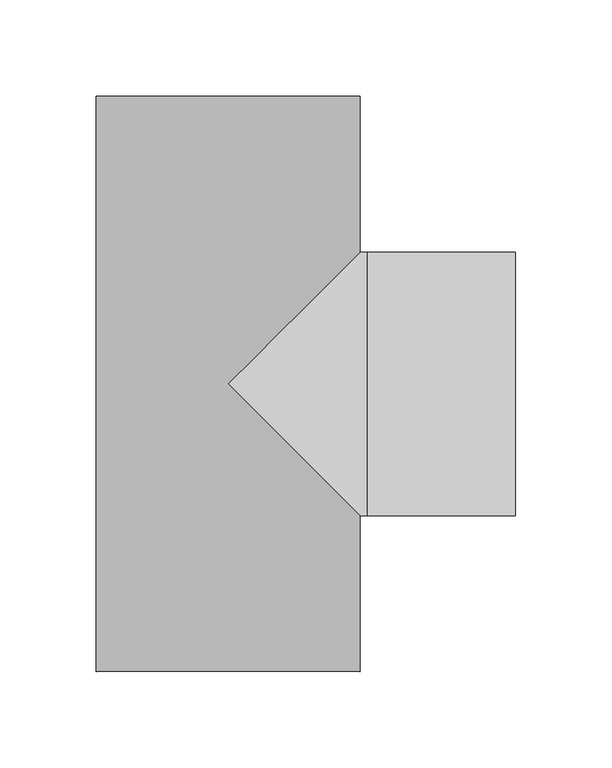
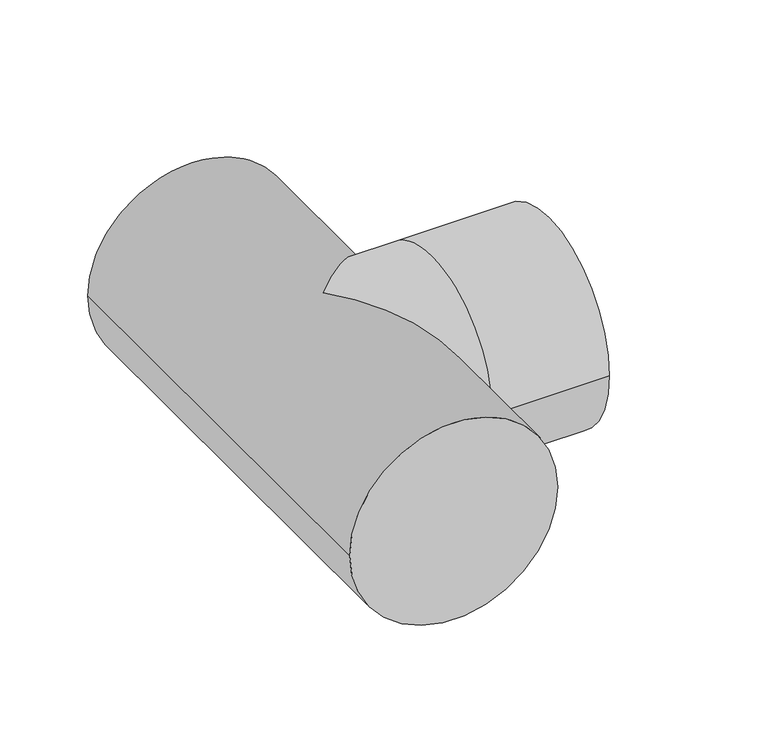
"""IFC4 building model written with IfcOpenShell, lengths in millimetres: pipe fitting geometry, 01051003 : Tés à 90º."""

from ifc_helpers import new_model, si_unit, frame, origin, place, context, project, spatial, circle_curve, ellipse_curve, source, transform, mapped, element, save
from ifc_brep_helpers import plane_surface, cylinder_surface, advanced_brep


def pipe_fitting_ccf7bf4d(model_context):
    return source(origin(), model_context, "Body", "AdvancedBrep", [
        advanced_brep(
        [(-68.4, 149.0, 0.0), (68.4, 149.0, 0.0), (-68.4, -149.0, 0.0), (68.4, -149.0, 0.0), (68.4, -68.4, 0.0), (0.0, 0.0, 68.4), (68.4, 68.4, 0.0), (0.0, 0.0, -68.4), (149.0, 68.4, 0.0), (149.0, -68.4, 0.0), (72.0, -68.4, 0.0), (72.0, 68.4, 0.0)],
        [
            (0, 1, circle_curve(frame((0.0, 149.0, 0.0), z_axis=(0.0, 1.0, 0.0), x_axis=(1.0, 0.0, 0.0)), 68.4)),
            (1, 0, circle_curve(frame((0.0, 149.0, 0.0), z_axis=(0.0, 1.0, 0.0), x_axis=(1.0, 0.0, 0.0)), 68.4)),
            (2, 3, circle_curve(frame((0.0, -149.0, 0.0), z_axis=(0.0, -1.0, 0.0), x_axis=(1.0, 0.0, 0.0)), 68.4)),
            (3, 2, circle_curve(frame((0.0, -149.0, 0.0), z_axis=(0.0, -1.0, 0.0), x_axis=(1.0, 0.0, 0.0)), 68.4)),
            (0, 2),
            (3, 4),
            (4, 5, ellipse_curve(frame((0.0, 0.0, 0.0), z_axis=(-0.7071067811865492, -0.7071067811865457, 0.0), x_axis=(-0.7071067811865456, 0.7071067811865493, 0.0)), 96.7322077, 68.4)),
            (5, 6, ellipse_curve(frame((0.0, 0.0, 0.0), z_axis=(-0.7071067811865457, 0.7071067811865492, 0.0), x_axis=(0.7071067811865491, 0.7071067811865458, 0.0)), 96.7322077, 68.4)),
            (6, 1),
            (6, 7, ellipse_curve(frame((0.0, 0.0, 0.0), z_axis=(-0.7071067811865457, 0.7071067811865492, 0.0), x_axis=(0.7071067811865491, 0.7071067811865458, 0.0)), 96.7322077, 68.4)),
            (7, 4, ellipse_curve(frame((0.0, 0.0, 0.0), z_axis=(-0.7071067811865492, -0.7071067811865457, 0.0), x_axis=(-0.7071067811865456, 0.7071067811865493, 0.0)), 96.7322077, 68.4)),
            (8, 9, circle_curve(frame((149.0, 0.0, 0.0), z_axis=(1.0, 0.0, 0.0), x_axis=(0.0, -1.0, 0.0)), 68.4)),
            (9, 8, circle_curve(frame((149.0, 0.0, 0.0), z_axis=(1.0, 0.0, 0.0), x_axis=(0.0, -1.0, 0.0)), 68.4)),
            (10, 11, circle_curve(frame((72.0, 0.0, 0.0), z_axis=(-1.0, 0.0, 0.0), x_axis=(0.0, -1.0, 0.0)), 68.4)),
            (11, 6),
            (4, 10),
            (11, 10, circle_curve(frame((72.0, 0.0, 0.0), z_axis=(-1.0, 0.0, 0.0), x_axis=(0.0, -1.0, 0.0)), 68.4)),
            (8, 11),
            (10, 9),
        ],
        [
            plane_surface(frame((0.0, 149.0, 0.0), z_axis=(0.0, 1.0, 0.0), x_axis=(0.0, 0.0, 1.0))),
            plane_surface(frame((0.0, -149.0, 0.0), z_axis=(0.0, -1.0, 0.0), x_axis=(0.0, 0.0, 1.0))),
            cylinder_surface(frame((0.0, 149.0, 0.0), z_axis=(0.0, 1.0, 0.0), x_axis=(1.0, 0.0, 0.0)), 68.4),
            plane_surface(frame((149.0, 0.0, 0.0), z_axis=(1.0, 0.0, 0.0), x_axis=(0.0, 0.0, 1.0))),
            cylinder_surface(frame((72.0, 0.0, 0.0), z_axis=(1.0, 0.0, 0.0), x_axis=(0.0, -1.0, 0.0)), 68.4),
            cylinder_surface(frame((149.0, 0.0, 0.0), z_axis=(1.0, 0.0, 0.0), x_axis=(0.0, -1.0, 0.0)), 68.4),
        ],
        [
            (0, [[1, 2]]),
            (1, [[3, 4]]),
            (2, [[-1, 5, -4, 6, 7, 8, 9]]),
            (2, [[-2, -9, 10, 11, -6, -3, -5]]),
            (3, [[12, 13]]),
            (4, [[14, 15, -8, -7, 16]]),
            (4, [[17, -16, -11, -10, -15]]),
            (5, [[-12, 18, -14, 19]]),
            (5, [[-13, -19, -17, -18]]),
        ],
    ),
    ])


if __name__ == "__main__":
    model = new_model("IFC4")
    model_context = context("Model", 3, world=origin())
    ifc_project = project(units=[si_unit("LENGTHUNIT", "METRE", prefix="MILLI")], contexts=[model_context])
    site = spatial("IfcSite", under=ifc_project)
    building = spatial("IfcBuilding", under=site)
    placement = place(None, origin())
    pipe_fitting_shape = pipe_fitting_ccf7bf4d(model_context)
    element("IfcPipeFitting", 1, ObjectType="01051003 : Tés à 90º", at=placement, inside=building, context=model_context, shape_type="MappedRepresentation", body=[
        mapped(pipe_fitting_shape, transform((0.0, 0.0, 0.0), x_axis=(1.0, 0.0, 0.0), y_axis=(0.0, 1.0, 0.0), z_axis=(0.0, 0.0, 1.0))),
    ])
    save(model, "model.ifc")
